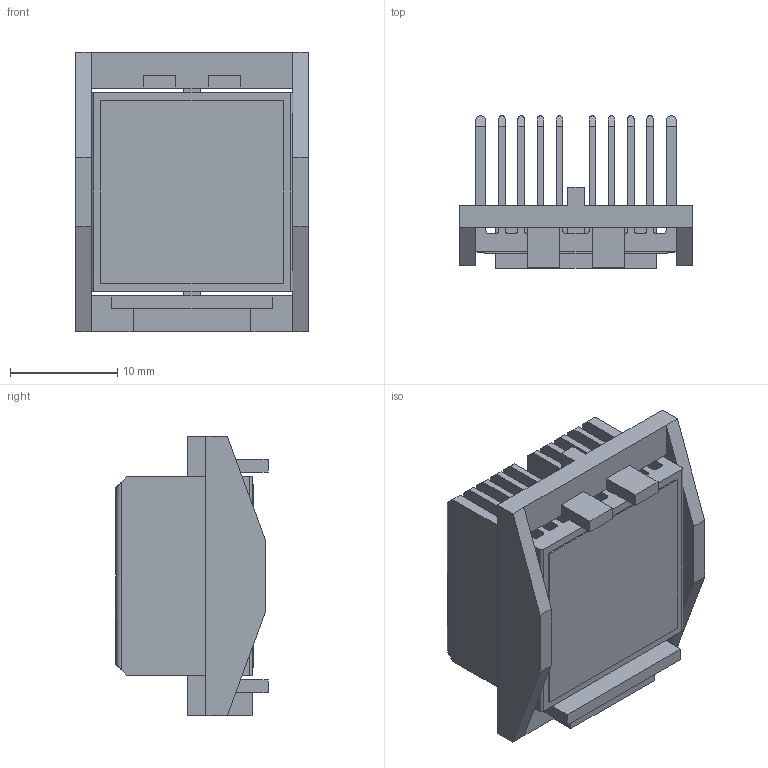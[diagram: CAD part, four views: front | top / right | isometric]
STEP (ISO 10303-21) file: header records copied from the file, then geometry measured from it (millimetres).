
FILE_DESCRIPTION (( 'STEP AP214' ), '1' );
FILE_NAME ('INL19001-13-1.7BU.STEP', '2023-02-20T23:56:41', ( '' ), ( '' ), 'SwSTEP 2.0', 'SolidWorks 2020', '' );
FILE_SCHEMA (( 'AUTOMOTIVE_DESIGN' ));
Length unit declared in the file: millimetre
Products named in the file (1): INL19001-13-1.7BU
Bounding box: 21.7 x 14.2 x 26.1 mm (x, y, z)
Volume: 2824.2 mm3; surface area: 6868.3 mm2
Topology: 3 solids, 3 shells, 136 faces, 392 edges, 260 vertices
Faces by surface type: plane 106, cylinder 30
Entity records: 5956 total; most frequent: CARTESIAN_POINT 849, ORIENTED_EDGE 784, DIRECTION 686, EDGE_CURVE 392, LINE 332, VECTOR 332, VERTEX_POINT 260, AXIS2_PLACEMENT_3D 177
